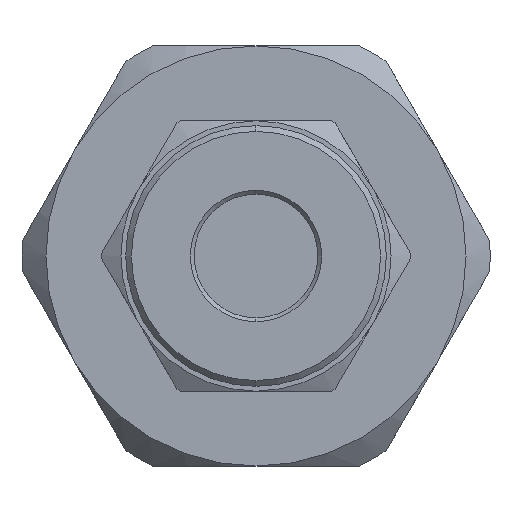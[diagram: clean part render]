
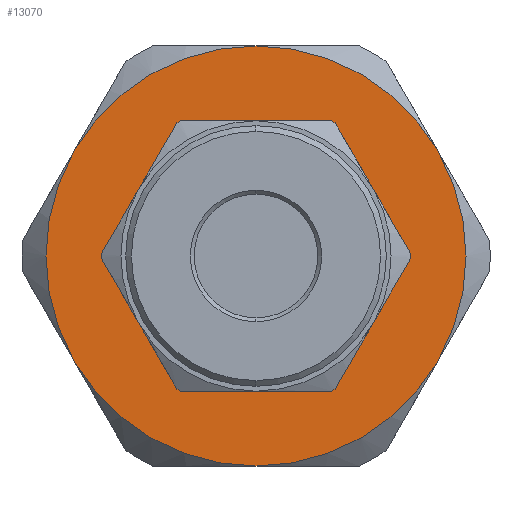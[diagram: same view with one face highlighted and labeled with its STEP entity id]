
A CAD part, left-side view. The second image highlights one B-rep face of the part: STEP entity #13070.
In plain terms, the highlighted planar face has unit normal (-1, 0, 0).
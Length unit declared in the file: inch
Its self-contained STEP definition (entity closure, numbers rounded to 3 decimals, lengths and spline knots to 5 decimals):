
#35 = EDGE_CURVE ( 'NONE', #8261, #9830, #13545, .T. ) ;
#109 = ORIENTED_EDGE ( 'NONE', *, *, #10110, .T. ) ;
#219 = CIRCLE ( 'NONE', #9306, 0.4375 ) ;
#304 = ORIENTED_EDGE ( 'NONE', *, *, #5501, .T. ) ;
#436 = DIRECTION ( 'NONE',  ( -1., 0., 0. ) ) ;
#731 = CARTESIAN_POINT ( 'NONE',  ( 0.407, 0., 0. ) ) ;
#826 = CARTESIAN_POINT ( 'NONE',  ( 0.407, -0.37889, -0.21875 ) ) ;
#1354 = AXIS2_PLACEMENT_3D ( 'NONE', #12776, #11754, #8610 ) ;
#1370 = CARTESIAN_POINT ( 'NONE',  ( 0.407, 0., 0. ) ) ;
#1553 = CIRCLE ( 'NONE', #9705, 0.21525 ) ;
#1566 = CIRCLE ( 'NONE', #11110, 0.4375 ) ;
#1568 = VERTEX_POINT ( 'NONE', #3160 ) ;
#1989 = PLANE ( 'NONE',  #1354 ) ;
#2027 = DIRECTION ( 'NONE',  ( 0., 0., 1. ) ) ;
#2262 = CARTESIAN_POINT ( 'NONE',  ( 0.407, -0.37889, 0.21875 ) ) ;
#2473 = DIRECTION ( 'NONE',  ( 0., 0., 1. ) ) ;
#2686 = CARTESIAN_POINT ( 'NONE',  ( 0.407, 0., 0. ) ) ;
#2879 = FACE_BOUND ( 'NONE', #4606, .T. ) ;
#3160 = CARTESIAN_POINT ( 'NONE',  ( 0.407, 0., 0.21525 ) ) ;
#3679 = AXIS2_PLACEMENT_3D ( 'NONE', #731, #7293, #12838 ) ;
#3990 = DIRECTION ( 'NONE',  ( -1., 0., 0. ) ) ;
#4020 = DIRECTION ( 'NONE',  ( 0., 0., 1. ) ) ;
#4376 = AXIS2_PLACEMENT_3D ( 'NONE', #2686, #3990, #11636 ) ;
#4606 = EDGE_LOOP ( 'NONE', ( #304, #6078 ) ) ;
#4957 = DIRECTION ( 'NONE',  ( 0., 0., 1. ) ) ;
#5110 = CARTESIAN_POINT ( 'NONE',  ( 0.407, 0.37889, -0.21875 ) ) ;
#5261 = CARTESIAN_POINT ( 'NONE',  ( 0.407, 0., 0.4375 ) ) ;
#5501 = EDGE_CURVE ( 'NONE', #1568, #9403, #1553, .T. ) ;
#5558 = CIRCLE ( 'NONE', #9522, 0.21525 ) ;
#6070 = EDGE_CURVE ( 'NONE', #8417, #13783, #219, .T. ) ;
#6078 = ORIENTED_EDGE ( 'NONE', *, *, #6216, .T. ) ;
#6216 = EDGE_CURVE ( 'NONE', #9403, #1568, #5558, .T. ) ;
#6352 = CARTESIAN_POINT ( 'NONE',  ( 0.407, 0., -0.21525 ) ) ;
#6960 = ORIENTED_EDGE ( 'NONE', *, *, #13774, .T. ) ;
#6993 = ORIENTED_EDGE ( 'NONE', *, *, #9584, .T. ) ;
#7252 = AXIS2_PLACEMENT_3D ( 'NONE', #13648, #11309, #12473 ) ;
#7293 = DIRECTION ( 'NONE',  ( -1., 0., 0. ) ) ;
#7355 = CARTESIAN_POINT ( 'NONE',  ( 0.407, 0., 0. ) ) ;
#8261 = VERTEX_POINT ( 'NONE', #5261 ) ;
#8293 = DIRECTION ( 'NONE',  ( 1., 0., 0. ) ) ;
#8406 = DIRECTION ( 'NONE',  ( 1., 0., 0. ) ) ;
#8417 = VERTEX_POINT ( 'NONE', #5110 ) ;
#8455 = CARTESIAN_POINT ( 'NONE',  ( 0.407, 0., 0. ) ) ;
#8610 = DIRECTION ( 'NONE',  ( 0., 0., 1. ) ) ;
#8649 = CARTESIAN_POINT ( 'NONE',  ( 0.407, 0.37889, 0.21875 ) ) ;
#8725 = CARTESIAN_POINT ( 'NONE',  ( 0.407, 0., 0. ) ) ;
#9002 = ORIENTED_EDGE ( 'NONE', *, *, #6070, .T. ) ;
#9306 = AXIS2_PLACEMENT_3D ( 'NONE', #7355, #12831, #4020 ) ;
#9403 = VERTEX_POINT ( 'NONE', #6352 ) ;
#9522 = AXIS2_PLACEMENT_3D ( 'NONE', #1370, #8293, #2473 ) ;
#9584 = EDGE_CURVE ( 'NONE', #9830, #8417, #14372, .T. ) ;
#9705 = AXIS2_PLACEMENT_3D ( 'NONE', #13736, #8406, #12633 ) ;
#9739 = CIRCLE ( 'NONE', #12983, 0.4375 ) ;
#9830 = VERTEX_POINT ( 'NONE', #8649 ) ;
#9846 = EDGE_CURVE ( 'NONE', #13783, #11087, #9739, .T. ) ;
#9937 = ORIENTED_EDGE ( 'NONE', *, *, #9846, .T. ) ;
#10110 = EDGE_CURVE ( 'NONE', #11087, #10644, #10669, .T. ) ;
#10644 = VERTEX_POINT ( 'NONE', #2262 ) ;
#10669 = CIRCLE ( 'NONE', #4376, 0.4375 ) ;
#10877 = EDGE_LOOP ( 'NONE', ( #9937, #109, #6960, #14376, #6993, #9002 ) ) ;
#11087 = VERTEX_POINT ( 'NONE', #826 ) ;
#11110 = AXIS2_PLACEMENT_3D ( 'NONE', #8455, #436, #4957 ) ;
#11309 = DIRECTION ( 'NONE',  ( -1., 0., 0. ) ) ;
#11636 = DIRECTION ( 'NONE',  ( 0., 0., 1. ) ) ;
#11736 = CARTESIAN_POINT ( 'NONE',  ( 0.407, 0., -0.4375 ) ) ;
#11754 = DIRECTION ( 'NONE',  ( -1., 0., 0. ) ) ;
#12473 = DIRECTION ( 'NONE',  ( 0., 0., 1. ) ) ;
#12633 = DIRECTION ( 'NONE',  ( 0., 0., 1. ) ) ;
#12776 = CARTESIAN_POINT ( 'NONE',  ( 0.407, 0., 0. ) ) ;
#12831 = DIRECTION ( 'NONE',  ( -1., 0., 0. ) ) ;
#12838 = DIRECTION ( 'NONE',  ( 0., 0., 1. ) ) ;
#12982 = FACE_OUTER_BOUND ( 'NONE', #10877, .T. ) ;
#12983 = AXIS2_PLACEMENT_3D ( 'NONE', #8725, #14192, #2027 ) ;
#13070 = ADVANCED_FACE ( 'NONE', ( #2879, #12982 ), #1989, .T. ) ;
#13545 = CIRCLE ( 'NONE', #7252, 0.4375 ) ;
#13648 = CARTESIAN_POINT ( 'NONE',  ( 0.407, 0., 0. ) ) ;
#13736 = CARTESIAN_POINT ( 'NONE',  ( 0.407, 0., 0. ) ) ;
#13774 = EDGE_CURVE ( 'NONE', #10644, #8261, #1566, .T. ) ;
#13783 = VERTEX_POINT ( 'NONE', #11736 ) ;
#14192 = DIRECTION ( 'NONE',  ( -1., 0., 0. ) ) ;
#14372 = CIRCLE ( 'NONE', #3679, 0.4375 ) ;
#14376 = ORIENTED_EDGE ( 'NONE', *, *, #35, .T. ) ;
